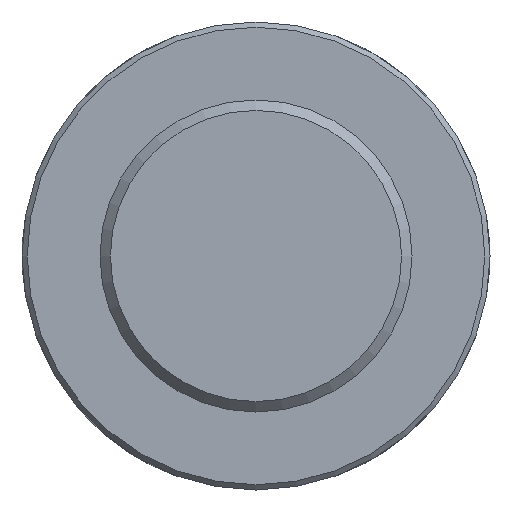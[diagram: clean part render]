
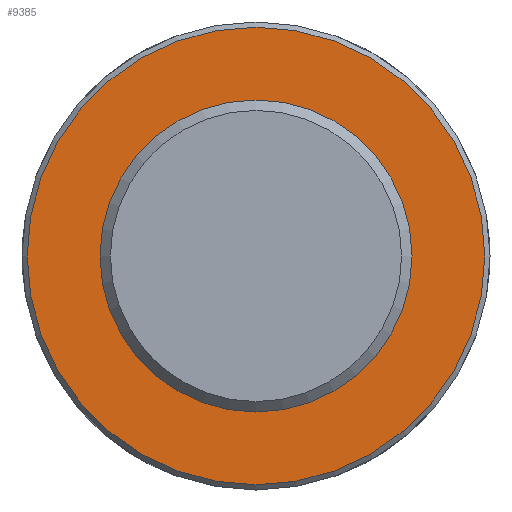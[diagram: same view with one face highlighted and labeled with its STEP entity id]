
A CAD part, front view. The second image highlights one B-rep face of the part: STEP entity #9385.
In plain terms, the highlighted planar face has unit normal (0, -1, 0) as drawn and (0, 1, 0) by its records, which use the part's own axes.
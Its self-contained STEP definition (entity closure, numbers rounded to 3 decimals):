
#73=CIRCLE('',#9688,88.);
#346=PLANE('',#9691);
#856=FACE_OUTER_BOUND('',#1443,.T.);
#1443=EDGE_LOOP('',(#8543));
#4443=VERTEX_POINT('',#17681);
#5813=EDGE_CURVE('',#4443,#4443,#73,.T.);
#8543=ORIENTED_EDGE('',*,*,#5813,.F.);
#9385=ADVANCED_FACE('',(#856),#346,.T.);
#9688=AXIS2_PLACEMENT_3D('',#17682,#10882,#10883);
#9691=AXIS2_PLACEMENT_3D('',#17920,#10888,#10889);
#10882=DIRECTION('center_axis',(0.,-1.,0.));
#10883=DIRECTION('ref_axis',(1.,0.,0.));
#10888=DIRECTION('center_axis',(0.,1.,0.));
#10889=DIRECTION('ref_axis',(0.,0.,1.));
#17681=CARTESIAN_POINT('',(-88.,80.,0.));
#17682=CARTESIAN_POINT('Origin',(0.,80.,0.));
#17920=CARTESIAN_POINT('Origin',(0.,80.,0.));
